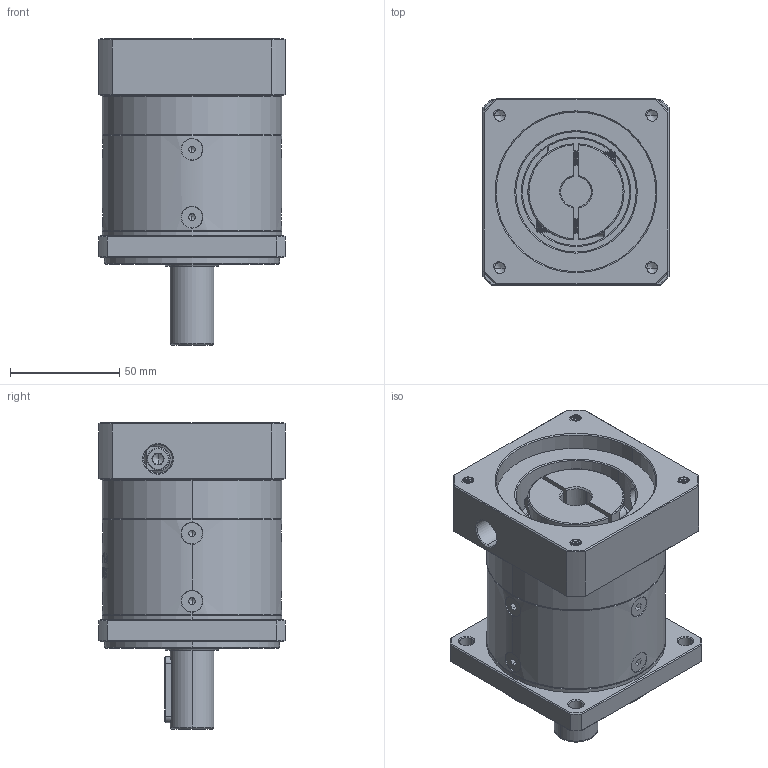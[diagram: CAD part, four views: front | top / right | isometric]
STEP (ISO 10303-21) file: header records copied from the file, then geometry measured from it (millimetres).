
FILE_DESCRIPTION (( 'STEP AP214' ), '1' );
FILE_NAME ('ZF080-D20-L1-P2-14-73-69.6X69.6-M6.step', '2023-08-19T05:27:54', ( '' ), ( '' ), 'SwSTEP 2.0', 'SolidWorks 2016', '' );
FILE_SCHEMA (( 'AUTOMOTIVE_DESIGN' ));
Length unit declared in the file: millimetre
Products named in the file (1): ZF080-D20-L1-P2-14-73-69.6X69.6-M6
Bounding box: 85 x 85 x 140 mm (x, y, z)
Volume: 543315.8 mm3; surface area: 88754.9 mm2
Topology: 13 solids, 13 shells, 2231 faces, 5840 edges, 3708 vertices
Faces by surface type: plane 1071, bspline 394, cylinder 390, cone 339, torus 37
Entity records: 119085 total; most frequent: CARTESIAN_POINT 44712, ORIENTED_EDGE 11620, DIRECTION 8618, EDGE_CURVE 5810, VERTEX_POINT 3708, VECTOR 3090, LINE 3090, AXIS2_PLACEMENT_3D 2764
